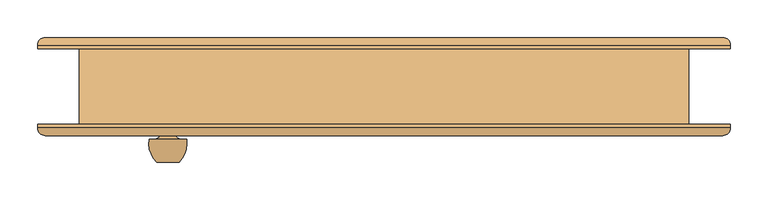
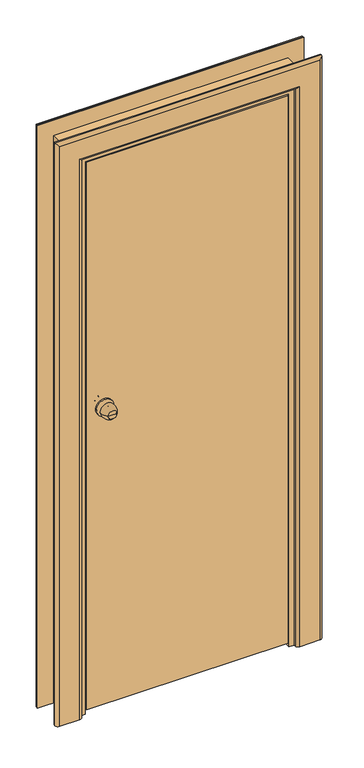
"""IFC4 building model written with IfcOpenShell, lengths in millimetres: door geometry, Внутренняя дверь 1-Навесная - 6629-88 : ДГ 21-8  ГОСТ 6629-88."""

from ifc_helpers import new_model, si_unit, point, frame, origin, place, context, project, spatial, polyline, circle_curve, ellipse_curve, trimmed, outline, extrude, faceted_brep, source, transform, mapped, element, save
from ifc_brep_helpers import plane_surface, cylinder_surface, revolved_surface, advanced_brep


def door_a4f02d3e(model_context):
    return source(origin(), model_context, "Body", "SolidModel", [
        advanced_brep(
        [(-272.0, -100.0, 1100.0), (-302.0, -100.0, 1100.0), (-287.0, -100.0, 1100.0), (-262.0, -70.0, 1100.0), (-312.0, -70.0, 1100.0), (-269.0, -70.0, 1100.0), (-305.0, -70.0, 1100.0), (-277.0, -62.0, 1100.0), (-297.0, -62.0, 1100.0), (-277.0, -56.0, 1100.0), (-297.0, -56.0, 1100.0), (-317.0, -56.0, 1100.0), (-257.0, -56.0, 1100.0), (-317.0, -50.0, 1100.0), (-257.0, -50.0, 1100.0)],
        [
            (0, 1, circle_curve(frame((-287.0, -100.0, 1100.0), z_axis=(0.0, -1.0, 0.0), x_axis=(-1.0, 0.0, 0.0)), 15.0)),
            (1, 2),
            (2, 0),
            (1, 0, circle_curve(frame((-287.0, -100.0, 1100.0), z_axis=(0.0, -1.0, 0.0), x_axis=(-1.0, 0.0, 0.0)), 15.0)),
            (0, 3, circle_curve(frame((-296.6226265, -75.1257912, 1100.0), z_axis=(0.0, 0.0, 1.0), x_axis=(-1.0, 0.0, 0.0)), 35.0)),
            (3, 4, circle_curve(frame((-287.0, -70.0, 1100.0), z_axis=(0.0, -1.0, 0.0), x_axis=(-1.0, 0.0, 0.0)), 25.0)),
            (4, 1, circle_curve(frame((-277.3773735, -75.1257912, 1100.0), z_axis=(0.0, 0.0, 1.0), x_axis=(1.0, 0.0, 0.0)), 35.0)),
            (4, 3, circle_curve(frame((-287.0, -70.0, 1100.0), z_axis=(0.0, -1.0, 0.0), x_axis=(-1.0, 0.0, 0.0)), 25.0)),
            (3, 5),
            (5, 6, circle_curve(frame((-287.0, -70.0, 1100.0), z_axis=(0.0, -1.0, 0.0), x_axis=(-1.0, 0.0, 0.0)), 18.0)),
            (6, 4),
            (6, 5, circle_curve(frame((-287.0, -70.0, 1100.0), z_axis=(0.0, -1.0, 0.0), x_axis=(-1.0, 0.0, 0.0)), 18.0)),
            (5, 7, circle_curve(frame((-269.0, -62.0, 1100.0), z_axis=(0.0, 0.0, -1.0), x_axis=(-1.0, 0.0, 0.0)), 8.0)),
            (7, 8, circle_curve(frame((-287.0, -62.0, 1100.0), z_axis=(0.0, -1.0, 0.0), x_axis=(-1.0, 0.0, 0.0)), 10.0)),
            (8, 6, circle_curve(frame((-305.0, -62.0, 1100.0), z_axis=(0.0, 0.0, -1.0), x_axis=(1.0, 0.0, 0.0)), 8.0)),
            (8, 7, circle_curve(frame((-287.0, -62.0, 1100.0), z_axis=(0.0, -1.0, 0.0), x_axis=(-1.0, 0.0, 0.0)), 10.0)),
            (7, 9),
            (9, 10, circle_curve(frame((-287.0, -56.0, 1100.0), z_axis=(0.0, -1.0, 0.0), x_axis=(-1.0, 0.0, 0.0)), 10.0)),
            (10, 8),
            (10, 9, circle_curve(frame((-287.0, -56.0, 1100.0), z_axis=(0.0, -1.0, 0.0), x_axis=(-1.0, 0.0, 0.0)), 10.0)),
            (11, 12, circle_curve(frame((-287.0, -56.0, 1100.0), z_axis=(0.0, -1.0, 0.0), x_axis=(1.0, 0.0, 0.0)), 30.0)),
            (12, 11, circle_curve(frame((-287.0, -56.0, 1100.0), z_axis=(0.0, -1.0, 0.0), x_axis=(1.0, 0.0, 0.0)), 30.0)),
            (13, 14, circle_curve(frame((-287.0, -50.0, 1100.0), z_axis=(0.0, 1.0, 0.0), x_axis=(1.0, 0.0, 0.0)), 30.0)),
            (14, 13, circle_curve(frame((-287.0, -50.0, 1100.0), z_axis=(0.0, 1.0, 0.0), x_axis=(1.0, 0.0, 0.0)), 30.0)),
            (11, 13),
            (14, 12),
        ],
        [
            plane_surface(frame((-287.0, -100.0, 1100.0), z_axis=(0.0, -1.0, 0.0), x_axis=(-1.0, 0.0, 0.0))),
            revolved_surface(trimmed(ellipse_curve(frame((-277.3773735, -75.1257912, 1100.0), z_axis=(0.0, 0.0, -1.0), x_axis=(1.0, 0.0, 0.0)), 35.0, 35.0), [point((-302.0, -100.0, 1100.0))], [point((-312.0, -70.0, 1100.0))], True, "CARTESIAN"), (-287.0, -130.0, 1100.0), (0.0, 1.0, 0.0)),
            plane_surface(frame((-287.0, -70.0, 1100.0), z_axis=(0.0, 1.0, 0.0), x_axis=(-1.0, 0.0, 0.0))),
            revolved_surface(trimmed(ellipse_curve(frame((-305.0, -62.0, 1100.0), z_axis=(0.0, 0.0, 1.0), x_axis=(1.0, 0.0, 0.0)), 8.0, 8.0), [point((-305.0, -70.0, 1100.0))], [point((-297.0, -62.0, 1100.0))], True, "CARTESIAN"), (-287.0, -130.0, 1100.0), (0.0, 1.0, 0.0)),
            cylinder_surface(frame((-287.0, -130.0, 1100.0), z_axis=(0.0, 1.0, 0.0), x_axis=(-1.0, 0.0, 0.0)), 10.0),
            plane_surface(frame((-257.0, -56.0, 1100.0), z_axis=(0.0, -1.0, 0.0), x_axis=(0.0, 0.0, 1.0))),
            plane_surface(frame((-257.0, -50.0, 1100.0), z_axis=(0.0, 1.0, 0.0), x_axis=(0.0, 0.0, -1.0))),
            cylinder_surface(frame((-287.0, -50.0, 1100.0), z_axis=(0.0, -1.0, 0.0), x_axis=(1.0, 0.0, 0.0)), 30.0),
        ],
        [
            (0, [[1, 2, 3]]),
            (0, [[-2, 4, -3]]),
            (1, [[-1, 5, 6, 7]]),
            (1, [[-4, -7, 8, -5]]),
            (2, [[-6, 9, 10, 11]]),
            (2, [[-8, -11, 12, -9]]),
            (3, [[-10, 13, 14, 15]]),
            (3, [[-12, -15, 16, -13]]),
            (4, [[-14, 17, 18, 19]]),
            (4, [[-16, -19, 20, -17]]),
            (5, [[21, 22], [-18, -20]]),
            (6, [[23, 24]]),
            (7, [[-21, 25, -24, 26]]),
            (7, [[-22, -26, -23, -25]]),
        ],
    ),
        advanced_brep(
        [(-302.0, 37.0, 1100.0), (-272.0, 37.0, 1100.0), (-287.0, 37.0, 1100.0), (-312.0, 7.0, 1100.0), (-262.0, 7.0, 1100.0), (-305.0, 7.0, 1100.0), (-269.0, 7.0, 1100.0), (-297.0, -1.0, 1100.0), (-277.0, -1.0, 1100.0), (-297.0, -7.0, 1100.0), (-277.0, -7.0, 1100.0), (-257.0, -7.0, 1100.0), (-317.0, -7.0, 1100.0), (-257.0, -13.0, 1100.0), (-317.0, -13.0, 1100.0)],
        [
            (0, 1, circle_curve(frame((-287.0, 37.0, 1100.0), z_axis=(0.0, 1.0, 0.0), x_axis=(1.0, 0.0, 0.0)), 15.0)),
            (1, 2),
            (2, 0),
            (1, 0, circle_curve(frame((-287.0, 37.0, 1100.0), z_axis=(0.0, 1.0, 0.0), x_axis=(1.0, 0.0, 0.0)), 15.0)),
            (0, 3, circle_curve(frame((-277.3773735, 12.1257912, 1100.0), z_axis=(0.0, 0.0, 1.0), x_axis=(1.0, 0.0, 0.0)), 35.0)),
            (3, 4, circle_curve(frame((-287.0, 7.0, 1100.0), z_axis=(0.0, 1.0, 0.0), x_axis=(1.0, 0.0, 0.0)), 25.0)),
            (4, 1, circle_curve(frame((-296.6226265, 12.1257912, 1100.0), z_axis=(0.0, 0.0, 1.0), x_axis=(-1.0, 0.0, 0.0)), 35.0)),
            (4, 3, circle_curve(frame((-287.0, 7.0, 1100.0), z_axis=(0.0, 1.0, 0.0), x_axis=(1.0, 0.0, 0.0)), 25.0)),
            (3, 5),
            (5, 6, circle_curve(frame((-287.0, 7.0, 1100.0), z_axis=(0.0, 1.0, 0.0), x_axis=(1.0, 0.0, 0.0)), 18.0)),
            (6, 4),
            (6, 5, circle_curve(frame((-287.0, 7.0, 1100.0), z_axis=(0.0, 1.0, 0.0), x_axis=(1.0, 0.0, 0.0)), 18.0)),
            (5, 7, circle_curve(frame((-305.0, -1.0, 1100.0), z_axis=(0.0, 0.0, -1.0), x_axis=(1.0, 0.0, 0.0)), 8.0)),
            (7, 8, circle_curve(frame((-287.0, -1.0, 1100.0), z_axis=(0.0, 1.0, 0.0), x_axis=(1.0, 0.0, 0.0)), 10.0)),
            (8, 6, circle_curve(frame((-269.0, -1.0, 1100.0), z_axis=(0.0, 0.0, -1.0), x_axis=(-1.0, 0.0, 0.0)), 8.0)),
            (8, 7, circle_curve(frame((-287.0, -1.0, 1100.0), z_axis=(0.0, 1.0, 0.0), x_axis=(1.0, 0.0, 0.0)), 10.0)),
            (7, 9),
            (9, 10, circle_curve(frame((-287.0, -7.0, 1100.0), z_axis=(0.0, 1.0, 0.0), x_axis=(1.0, 0.0, 0.0)), 10.0)),
            (10, 8),
            (10, 9, circle_curve(frame((-287.0, -7.0, 1100.0), z_axis=(0.0, 1.0, 0.0), x_axis=(1.0, 0.0, 0.0)), 10.0)),
            (11, 12, circle_curve(frame((-287.0, -7.0, 1100.0), z_axis=(0.0, 1.0, 0.0), x_axis=(-1.0, 0.0, 0.0)), 30.0)),
            (12, 11, circle_curve(frame((-287.0, -7.0, 1100.0), z_axis=(0.0, 1.0, 0.0), x_axis=(-1.0, 0.0, 0.0)), 30.0)),
            (13, 14, circle_curve(frame((-287.0, -13.0, 1100.0), z_axis=(0.0, -1.0, 0.0), x_axis=(-1.0, 0.0, 0.0)), 30.0)),
            (14, 13, circle_curve(frame((-287.0, -13.0, 1100.0), z_axis=(0.0, -1.0, 0.0), x_axis=(-1.0, 0.0, 0.0)), 30.0)),
            (11, 13),
            (14, 12),
        ],
        [
            plane_surface(frame((-287.0, 37.0, 1100.0), z_axis=(0.0, 1.0, 0.0), x_axis=(1.0, 0.0, 0.0))),
            revolved_surface(trimmed(ellipse_curve(frame((-296.6226265, 12.1257912, 1100.0), z_axis=(0.0, 0.0, -1.0), x_axis=(-1.0, 0.0, 0.0)), 35.0, 35.0), [point((-272.0, 37.0, 1100.0))], [point((-262.0, 7.0, 1100.0))], True, "CARTESIAN"), (-287.0, 67.0, 1100.0), (0.0, -1.0, 0.0)),
            plane_surface(frame((-287.0, 7.0, 1100.0), z_axis=(0.0, -1.0, 0.0), x_axis=(1.0, 0.0, 0.0))),
            revolved_surface(trimmed(ellipse_curve(frame((-269.0, -1.0, 1100.0), z_axis=(0.0, 0.0, 1.0), x_axis=(-1.0, 0.0, 0.0)), 8.0, 8.0), [point((-269.0, 7.0, 1100.0))], [point((-277.0, -1.0, 1100.0))], True, "CARTESIAN"), (-287.0, 67.0, 1100.0), (0.0, -1.0, 0.0)),
            cylinder_surface(frame((-287.0, 67.0, 1100.0), z_axis=(0.0, -1.0, 0.0), x_axis=(1.0, 0.0, 0.0)), 10.0),
            plane_surface(frame((-317.0, -7.0, 1100.0), z_axis=(0.0, 1.0, 0.0), x_axis=(0.0, 0.0, 1.0))),
            plane_surface(frame((-317.0, -13.0, 1100.0), z_axis=(0.0, -1.0, 0.0), x_axis=(0.0, 0.0, -1.0))),
            cylinder_surface(frame((-287.0, -13.0, 1100.0), z_axis=(0.0, 1.0, 0.0), x_axis=(-1.0, 0.0, 0.0)), 30.0),
        ],
        [
            (0, [[1, 2, 3]]),
            (0, [[-2, 4, -3]]),
            (1, [[-1, 5, 6, 7]]),
            (1, [[-4, -7, 8, -5]]),
            (2, [[-6, 9, 10, 11]]),
            (2, [[-8, -11, 12, -9]]),
            (3, [[-10, 13, 14, 15]]),
            (3, [[-12, -15, 16, -13]]),
            (4, [[-14, 17, 18, 19]]),
            (4, [[-16, -19, 20, -17]]),
            (5, [[21, 22], [-18, -20]]),
            (6, [[23, 24]]),
            (7, [[-21, 25, -24, 26]]),
            (7, [[-22, -26, -23, -25]]),
        ],
    ),
        extrude(outline(polyline([(0.0, 370.0), (0.0, 385.0), (2050.0, 385.0), (2050.0, -385.0), (0.0, -385.0), (0.0, -370.0), (2035.0, -370.0), (2035.0, 370.0), (0.0, 370.0)])), frame((0.0, 24.0, 0.0), z_axis=(0.0, 1.0, 0.0), x_axis=(0.0, 0.0, 1.0)), (0.0, 0.0, 1.0), 26.0),
        advanced_brep(
        [(-460.0, -50.0, 0.0), (-370.0, -50.0, 0.0), (-370.0, -55.0, 0.0), (-380.0, -65.0, 0.0), (-450.0, -65.0, 0.0), (-460.0, -55.0, 0.0), (-460.0, -50.0, 2125.0), (460.0, -50.0, 2125.0), (460.0, -50.0, 0.0), (370.0, -50.0, 0.0), (370.0, -50.0, 2035.0), (-370.0, -50.0, 2035.0), (-370.0, -55.0, 2035.0), (-380.0, -65.0, 2045.0), (380.0, -65.0, 2045.0), (380.0, -65.0, 0.0), (450.0, -65.0, 0.0), (450.0, -65.0, 2115.0), (-450.0, -65.0, 2115.0), (-460.0, -55.0, 2125.0), (460.0, -55.0, 2125.0), (460.0, -55.0, 0.0), (370.0, -55.0, 0.0), (370.0, -55.0, 2035.0)],
        [
            (0, 1),
            (1, 2),
            (2, 3, circle_curve(frame((-380.0, -55.0, 0.0), z_axis=(0.0, 0.0, -1.0), x_axis=(-1.0, 0.0, 0.0)), 10.0)),
            (3, 4),
            (4, 5, circle_curve(frame((-450.0, -55.0, 0.0), z_axis=(0.0, 0.0, -1.0), x_axis=(-1.0, 0.0, 0.0)), 10.0)),
            (5, 0),
            (0, 6),
            (6, 7),
            (7, 8),
            (8, 9),
            (9, 10),
            (10, 11),
            (11, 1),
            (11, 12),
            (12, 2),
            (12, 13, ellipse_curve(frame((-380.0, -55.0, 2045.0), z_axis=(-0.7071067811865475, 0.0, -0.7071067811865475), x_axis=(0.7071067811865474, 0.0, -0.7071067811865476)), 14.1421356, 10.0)),
            (13, 3),
            (13, 14),
            (14, 15),
            (15, 16),
            (16, 17),
            (17, 18),
            (18, 4),
            (18, 19, ellipse_curve(frame((-450.0, -55.0, 2115.0), z_axis=(-0.7071067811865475, 0.0, -0.7071067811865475), x_axis=(0.7071067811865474, 0.0, -0.7071067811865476)), 14.1421356, 10.0)),
            (19, 5),
            (19, 6),
            (7, 20),
            (20, 21),
            (21, 8),
            (21, 16, circle_curve(frame((450.0, -55.0, 0.0), z_axis=(0.0, 0.0, -1.0), x_axis=(1.0, 0.0, 0.0)), 10.0)),
            (15, 22, circle_curve(frame((380.0, -55.0, 0.0), z_axis=(0.0, 0.0, -1.0), x_axis=(1.0, 0.0, 0.0)), 10.0)),
            (22, 9),
            (23, 10),
            (22, 23),
            (14, 23, ellipse_curve(frame((380.0, -55.0, 2045.0), z_axis=(0.7071067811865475, 0.0, -0.7071067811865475), x_axis=(0.7071067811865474, 0.0, 0.7071067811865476)), 14.1421356, 10.0)),
            (20, 17, ellipse_curve(frame((450.0, -55.0, 2115.0), z_axis=(0.7071067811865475, 0.0, -0.7071067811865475), x_axis=(0.7071067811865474, 0.0, 0.7071067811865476)), 14.1421356, 10.0)),
            (23, 12),
            (20, 19),
        ],
        [
            plane_surface(frame((-405.0, -50.0, 0.0), z_axis=(0.0, 0.0, -1.0), x_axis=(0.0, 1.0, 0.0))),
            plane_surface(frame((-460.0, -50.0, 0.0), z_axis=(0.0, 1.0, 0.0), x_axis=(0.0, 0.0, 1.0))),
            plane_surface(frame((-370.0, -50.0, 0.0), z_axis=(1.0, 0.0, 0.0), x_axis=(0.0, 0.0, 1.0))),
            cylinder_surface(frame((-380.0, -55.0, 0.0), z_axis=(0.0, 0.0, -1.0), x_axis=(-1.0, 0.0, 0.0)), 10.0),
            plane_surface(frame((-380.0, -65.0, 0.0), z_axis=(0.0, -1.0, 0.0), x_axis=(0.0, 0.0, 1.0))),
            cylinder_surface(frame((-450.0, -55.0, 0.0), z_axis=(0.0, 0.0, -1.0), x_axis=(-1.0, 0.0, 0.0)), 10.0),
            plane_surface(frame((-460.0, -55.0, 0.0), z_axis=(-1.0, 0.0, 0.0), x_axis=(0.0, 0.0, 1.0))),
            plane_surface(frame((460.0, -55.0, 2125.0), z_axis=(1.0, 0.0, 0.0), x_axis=(0.0, 0.0, -1.0))),
            plane_surface(frame((405.0, -50.0, 0.0), z_axis=(0.0, 0.0, -1.0), x_axis=(0.0, 1.0, 0.0))),
            plane_surface(frame((370.0, -50.0, 2035.0), z_axis=(-1.0, 0.0, 0.0), x_axis=(0.0, 0.0, -1.0))),
            cylinder_surface(frame((380.0, -55.0, 2070.0), z_axis=(0.0, 0.0, 1.0), x_axis=(1.0, 0.0, 0.0)), 10.0),
            cylinder_surface(frame((450.0, -55.0, 2070.0), z_axis=(0.0, 0.0, 1.0), x_axis=(1.0, 0.0, 0.0)), 10.0),
            plane_surface(frame((-370.0, -50.0, 2035.0), z_axis=(0.0, 0.0, -1.0), x_axis=(1.0, 0.0, 0.0))),
            cylinder_surface(frame((-405.0, -55.0, 2045.0), z_axis=(-1.0, 0.0, 0.0), x_axis=(0.0, 0.0, 1.0)), 10.0),
            cylinder_surface(frame((-405.0, -55.0, 2115.0), z_axis=(-1.0, 0.0, 0.0), x_axis=(0.0, 0.0, 1.0)), 10.0),
            plane_surface(frame((-460.0, -55.0, 2125.0), z_axis=(0.0, 0.0, 1.0), x_axis=(1.0, 0.0, 0.0))),
        ],
        [
            (0, [[1, 2, 3, 4, 5, 6]]),
            (1, [[-1, 7, 8, 9, 10, 11, 12, 13]]),
            (2, [[-2, -13, 14, 15]]),
            (3, [[-3, -15, 16, 17]]),
            (4, [[-4, -17, 18, 19, 20, 21, 22, 23]]),
            (5, [[-5, -23, 24, 25]]),
            (6, [[-6, -25, 26, -7]]),
            (7, [[27, 28, 29, -9]]),
            (8, [[-29, 30, -20, 31, 32, -10]]),
            (9, [[33, -11, -32, 34]]),
            (10, [[35, -34, -31, -19]]),
            (11, [[36, -21, -30, -28]]),
            (12, [[-14, -12, -33, 37]]),
            (13, [[-16, -37, -35, -18]]),
            (14, [[-24, -22, -36, 38]]),
            (15, [[-26, -38, -27, -8]]),
        ],
    ),
        advanced_brep(
        [(460.0, 50.0, 0.0), (370.0, 50.0, 0.0), (370.0, 55.0, 0.0), (380.0, 65.0, 0.0), (450.0, 65.0, 0.0), (460.0, 55.0, 0.0), (460.0, 50.0, 2125.0), (-460.0, 50.0, 2125.0), (-460.0, 50.0, 0.0), (-370.0, 50.0, 0.0), (-370.0, 50.0, 2035.0), (370.0, 50.0, 2035.0), (370.0, 55.0, 2035.0), (380.0, 65.0, 2045.0), (-380.0, 65.0, 2045.0), (-380.0, 65.0, 0.0), (-450.0, 65.0, 0.0), (-450.0, 65.0, 2115.0), (450.0, 65.0, 2115.0), (460.0, 55.0, 2125.0), (-460.0, 55.0, 2125.0), (-460.0, 55.0, 0.0), (-370.0, 55.0, 0.0), (-370.0, 55.0, 2035.0)],
        [
            (0, 1),
            (1, 2),
            (2, 3, circle_curve(frame((380.0, 55.0, 0.0), z_axis=(0.0, 0.0, -1.0), x_axis=(1.0, 0.0, 0.0)), 10.0)),
            (3, 4),
            (4, 5, circle_curve(frame((450.0, 55.0, 0.0), z_axis=(0.0, 0.0, -1.0), x_axis=(1.0, 0.0, 0.0)), 10.0)),
            (5, 0),
            (0, 6),
            (6, 7),
            (7, 8),
            (8, 9),
            (9, 10),
            (10, 11),
            (11, 1),
            (11, 12),
            (12, 2),
            (12, 13, ellipse_curve(frame((380.0, 55.0, 2045.0), z_axis=(0.7071067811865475, 0.0, -0.7071067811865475), x_axis=(-0.7071067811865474, 0.0, -0.7071067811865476)), 14.1421356, 10.0)),
            (13, 3),
            (13, 14),
            (14, 15),
            (15, 16),
            (16, 17),
            (17, 18),
            (18, 4),
            (18, 19, ellipse_curve(frame((450.0, 55.0, 2115.0), z_axis=(0.7071067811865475, 0.0, -0.7071067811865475), x_axis=(-0.7071067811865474, 0.0, -0.7071067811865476)), 14.1421356, 10.0)),
            (19, 5),
            (19, 6),
            (7, 20),
            (20, 21),
            (21, 8),
            (21, 16, circle_curve(frame((-450.0, 55.0, 0.0), z_axis=(0.0, 0.0, -1.0), x_axis=(-1.0, 0.0, 0.0)), 10.0)),
            (15, 22, circle_curve(frame((-380.0, 55.0, 0.0), z_axis=(0.0, 0.0, -1.0), x_axis=(-1.0, 0.0, 0.0)), 10.0)),
            (22, 9),
            (23, 10),
            (22, 23),
            (14, 23, ellipse_curve(frame((-380.0, 55.0, 2045.0), z_axis=(-0.7071067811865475, 0.0, -0.7071067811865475), x_axis=(-0.7071067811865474, 0.0, 0.7071067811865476)), 14.1421356, 10.0)),
            (20, 17, ellipse_curve(frame((-450.0, 55.0, 2115.0), z_axis=(-0.7071067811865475, 0.0, -0.7071067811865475), x_axis=(-0.7071067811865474, 0.0, 0.7071067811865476)), 14.1421356, 10.0)),
            (23, 12),
            (20, 19),
        ],
        [
            plane_surface(frame((405.0, 50.0, 0.0), z_axis=(0.0, 0.0, -1.0), x_axis=(0.0, -1.0, 0.0))),
            plane_surface(frame((460.0, 50.0, 0.0), z_axis=(0.0, -1.0, 0.0), x_axis=(0.0, 0.0, 1.0))),
            plane_surface(frame((370.0, 50.0, 0.0), z_axis=(-1.0, 0.0, 0.0), x_axis=(0.0, 0.0, 1.0))),
            cylinder_surface(frame((380.0, 55.0, 0.0), z_axis=(0.0, 0.0, -1.0), x_axis=(1.0, 0.0, 0.0)), 10.0),
            plane_surface(frame((380.0, 65.0, 0.0), z_axis=(0.0, 1.0, 0.0), x_axis=(0.0, 0.0, 1.0))),
            cylinder_surface(frame((450.0, 55.0, 0.0), z_axis=(0.0, 0.0, -1.0), x_axis=(1.0, 0.0, 0.0)), 10.0),
            plane_surface(frame((460.0, 55.0, 0.0), z_axis=(1.0, 0.0, 0.0), x_axis=(0.0, 0.0, 1.0))),
            plane_surface(frame((-460.0, 55.0, 2125.0), z_axis=(-1.0, 0.0, 0.0), x_axis=(0.0, 0.0, -1.0))),
            plane_surface(frame((-405.0, 50.0, 0.0), z_axis=(0.0, 0.0, -1.0), x_axis=(0.0, -1.0, 0.0))),
            plane_surface(frame((-370.0, 50.0, 2035.0), z_axis=(1.0, 0.0, 0.0), x_axis=(0.0, 0.0, -1.0))),
            cylinder_surface(frame((-380.0, 55.0, 2070.0), z_axis=(0.0, 0.0, 1.0), x_axis=(-1.0, 0.0, 0.0)), 10.0),
            cylinder_surface(frame((-450.0, 55.0, 2070.0), z_axis=(0.0, 0.0, 1.0), x_axis=(-1.0, 0.0, 0.0)), 10.0),
            plane_surface(frame((370.0, 50.0, 2035.0), z_axis=(0.0, 0.0, -1.0), x_axis=(-1.0, 0.0, 0.0))),
            cylinder_surface(frame((405.0, 55.0, 2045.0), z_axis=(1.0, 0.0, 0.0), x_axis=(0.0, 0.0, 1.0)), 10.0),
            cylinder_surface(frame((405.0, 55.0, 2115.0), z_axis=(1.0, 0.0, 0.0), x_axis=(0.0, 0.0, 1.0)), 10.0),
            plane_surface(frame((460.0, 55.0, 2125.0), z_axis=(0.0, 0.0, 1.0), x_axis=(-1.0, 0.0, 0.0))),
        ],
        [
            (0, [[1, 2, 3, 4, 5, 6]]),
            (1, [[-1, 7, 8, 9, 10, 11, 12, 13]]),
            (2, [[-2, -13, 14, 15]]),
            (3, [[-3, -15, 16, 17]]),
            (4, [[-4, -17, 18, 19, 20, 21, 22, 23]]),
            (5, [[-5, -23, 24, 25]]),
            (6, [[-6, -25, 26, -7]]),
            (7, [[27, 28, 29, -9]]),
            (8, [[-29, 30, -20, 31, 32, -10]]),
            (9, [[33, -11, -32, 34]]),
            (10, [[35, -34, -31, -19]]),
            (11, [[36, -21, -30, -28]]),
            (12, [[-14, -12, -33, 37]]),
            (13, [[-16, -37, -35, -18]]),
            (14, [[-24, -22, -36, 38]]),
            (15, [[-26, -38, -27, -8]]),
        ],
    ),
        faceted_brep([(340.0, 24.0, 0.0), (385.0, 24.0, 0.0), (385.0, -50.0, 0.0), (352.0, -50.0, 0.0), (352.0, -8.0, 0.0), (340.0, -8.0, 0.0), (340.0, 24.0, 2005.0), (-340.0, 24.0, 2005.0), (-340.0, 24.0, 0.0), (-385.0, 24.0, 0.0), (-385.0, 24.0, 2050.0), (385.0, 24.0, 2050.0), (385.0, -50.0, 2050.0), (-385.0, -50.0, 2050.0), (-385.0, -50.0, 0.0), (-352.0, -50.0, 0.0), (-352.0, -50.0, 2017.0), (352.0, -50.0, 2017.0), (352.0, -8.0, 2017.0), (-352.0, -8.0, 2017.0), (-352.0, -8.0, 0.0), (-340.0, -8.0, 0.0), (-340.0, -8.0, 2005.0), (340.0, -8.0, 2005.0)], [[[0, 1, 2, 3, 4, 5]], [[1, 0, 6, 7, 8, 9, 10, 11]], [[2, 1, 11, 12]], [[3, 2, 12, 13, 14, 15, 16, 17]], [[4, 3, 17, 18]], [[5, 4, 18, 19, 20, 21, 22, 23]], [[0, 5, 23, 6]], [[7, 22, 21, 8]], [[8, 21, 20, 15, 14, 9]], [[13, 10, 9, 14]], [[19, 16, 15, 20]], [[12, 11, 10, 13]], [[18, 17, 16, 19]], [[6, 23, 22, 7]]]),
        extrude(outline(polyline([(0.0, 385.0), (0.0, 405.0), (2070.0, 405.0), (2070.0, -405.0), (0.0, -405.0), (0.0, -385.0), (2050.0, -385.0), (2050.0, 385.0), (0.0, 385.0)])), frame((0.0, -50.0, 0.0), z_axis=(0.0, 1.0, 0.0), x_axis=(0.0, 0.0, 1.0)), (0.0, 0.0, 1.0), 100.0),
        extrude(outline(polyline([(347.0, -13.0), (347.0, -50.0), (-347.0, -50.0), (-347.0, -13.0), (347.0, -13.0)])), frame((0.0, 0.0, 15.0), z_axis=(0.0, 0.0, 1.0), x_axis=(1.0, 0.0, 0.0)), (0.0, 0.0, 1.0), 1997.0),
    ])


if __name__ == "__main__":
    model = new_model("IFC4")
    model_context = context("Model", 3, world=origin())
    ifc_project = project(units=[si_unit("LENGTHUNIT", "METRE", prefix="MILLI")], contexts=[model_context])
    site = spatial("IfcSite", under=ifc_project)
    building = spatial("IfcBuilding", under=site)
    placement = place(None, origin())
    door_shape = door_a4f02d3e(model_context)
    element("IfcDoor", 1, ObjectType="Внутренняя дверь 1-Навесная - 6629-88 : ДГ 21-8  ГОСТ 6629-88", at=placement, inside=building, context=model_context, shape_type="MappedRepresentation", body=[
        mapped(door_shape, transform((0.0, 0.0, 0.0), x_axis=(1.0, 0.0, 0.0), y_axis=(0.0, 1.0, 0.0), z_axis=(0.0, 0.0, 1.0))),
    ])
    save(model, "model.ifc")
